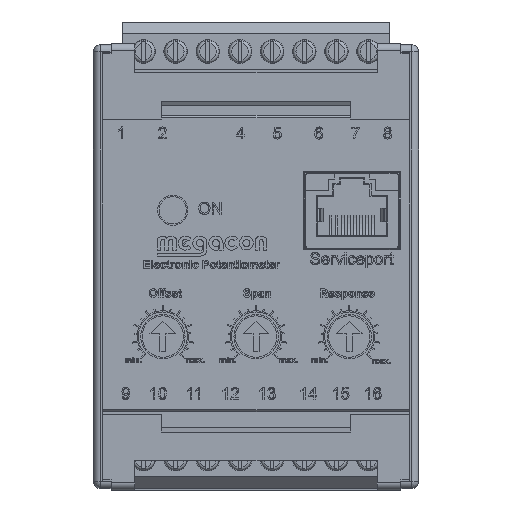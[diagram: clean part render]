
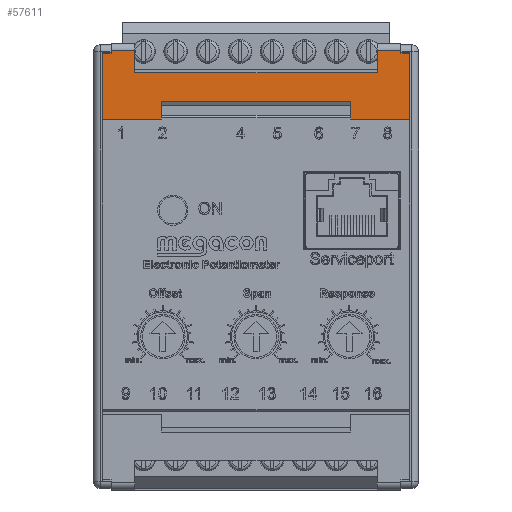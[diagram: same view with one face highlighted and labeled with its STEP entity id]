
A CAD part, front view. The second image highlights one B-rep face of the part: STEP entity #57611.
In plain terms, the highlighted planar face has unit normal (0, -1, 0) as drawn and (0, 1, 0) by its records, which use the part's own axes.
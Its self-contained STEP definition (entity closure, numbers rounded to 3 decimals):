
#4498=PLANE('',#61094);
#6546=FACE_OUTER_BOUND('',#9847,.T.);
#9847=EDGE_LOOP('',(#41024,#41025,#41026,#41027,#41028,#41029,#41030,#41031,
#41032,#41033,#41034,#41035,#41036,#41037,#41038,#41039));
#13535=LINE('',#79485,#19221);
#13608=LINE('',#79630,#19294);
#13705=LINE('',#79819,#19391);
#13706=LINE('',#79821,#19392);
#13707=LINE('',#79823,#19393);
#13708=LINE('',#79824,#19394);
#13709=LINE('',#79826,#19395);
#13710=LINE('',#79828,#19396);
#13711=LINE('',#79830,#19397);
#13712=LINE('',#79832,#19398);
#13713=LINE('',#79833,#19399);
#13714=LINE('',#79835,#19400);
#13715=LINE('',#79837,#19401);
#13716=LINE('',#79839,#19402);
#13717=LINE('',#79841,#19403);
#13718=LINE('',#79842,#19404);
#19221=VECTOR('',#64360,1000.);
#19294=VECTOR('',#64459,1000.);
#19391=VECTOR('',#64596,1000.);
#19392=VECTOR('',#64597,1000.);
#19393=VECTOR('',#64598,1000.);
#19394=VECTOR('',#64599,1000.);
#19395=VECTOR('',#64600,1000.);
#19396=VECTOR('',#64601,1000.);
#19397=VECTOR('',#64602,1000.);
#19398=VECTOR('',#64603,1000.);
#19399=VECTOR('',#64604,1000.);
#19400=VECTOR('',#64605,1000.);
#19401=VECTOR('',#64606,1000.);
#19402=VECTOR('',#64607,1000.);
#19403=VECTOR('',#64608,1000.);
#19404=VECTOR('',#64609,1000.);
#25396=VERTEX_POINT('',#79482);
#25397=VERTEX_POINT('',#79484);
#25455=VERTEX_POINT('',#79627);
#25456=VERTEX_POINT('',#79629);
#25527=VERTEX_POINT('',#79817);
#25528=VERTEX_POINT('',#79818);
#25529=VERTEX_POINT('',#79820);
#25530=VERTEX_POINT('',#79822);
#25531=VERTEX_POINT('',#79825);
#25532=VERTEX_POINT('',#79827);
#25533=VERTEX_POINT('',#79829);
#25534=VERTEX_POINT('',#79831);
#25535=VERTEX_POINT('',#79834);
#25536=VERTEX_POINT('',#79836);
#25537=VERTEX_POINT('',#79838);
#25538=VERTEX_POINT('',#79840);
#31393=EDGE_CURVE('',#25396,#25397,#13535,.T.);
#31466=EDGE_CURVE('',#25456,#25455,#13608,.T.);
#31563=EDGE_CURVE('',#25527,#25528,#13705,.T.);
#31564=EDGE_CURVE('',#25528,#25529,#13706,.T.);
#31565=EDGE_CURVE('',#25530,#25529,#13707,.T.);
#31566=EDGE_CURVE('',#25530,#25456,#13708,.T.);
#31567=EDGE_CURVE('',#25531,#25455,#13709,.T.);
#31568=EDGE_CURVE('',#25532,#25531,#13710,.T.);
#31569=EDGE_CURVE('',#25532,#25533,#13711,.T.);
#31570=EDGE_CURVE('',#25533,#25534,#13712,.T.);
#31571=EDGE_CURVE('',#25397,#25534,#13713,.T.);
#31572=EDGE_CURVE('',#25535,#25396,#13714,.T.);
#31573=EDGE_CURVE('',#25535,#25536,#13715,.T.);
#31574=EDGE_CURVE('',#25536,#25537,#13716,.T.);
#31575=EDGE_CURVE('',#25538,#25537,#13717,.T.);
#31576=EDGE_CURVE('',#25538,#25527,#13718,.T.);
#41024=ORIENTED_EDGE('',*,*,#31563,.T.);
#41025=ORIENTED_EDGE('',*,*,#31564,.T.);
#41026=ORIENTED_EDGE('',*,*,#31565,.F.);
#41027=ORIENTED_EDGE('',*,*,#31566,.T.);
#41028=ORIENTED_EDGE('',*,*,#31466,.T.);
#41029=ORIENTED_EDGE('',*,*,#31567,.F.);
#41030=ORIENTED_EDGE('',*,*,#31568,.F.);
#41031=ORIENTED_EDGE('',*,*,#31569,.T.);
#41032=ORIENTED_EDGE('',*,*,#31570,.T.);
#41033=ORIENTED_EDGE('',*,*,#31571,.F.);
#41034=ORIENTED_EDGE('',*,*,#31393,.F.);
#41035=ORIENTED_EDGE('',*,*,#31572,.F.);
#41036=ORIENTED_EDGE('',*,*,#31573,.T.);
#41037=ORIENTED_EDGE('',*,*,#31574,.T.);
#41038=ORIENTED_EDGE('',*,*,#31575,.F.);
#41039=ORIENTED_EDGE('',*,*,#31576,.T.);
#57611=ADVANCED_FACE('',(#6546),#4498,.F.);
#61094=AXIS2_PLACEMENT_3D('',#79816,#64594,#64595);
#64360=DIRECTION('',(0.,0.,1.));
#64459=DIRECTION('',(0.,0.,1.));
#64594=DIRECTION('center_axis',(0.,-1.,0.));
#64595=DIRECTION('ref_axis',(0.,0.,-1.));
#64596=DIRECTION('',(0.,0.,-1.));
#64597=DIRECTION('',(-1.,0.,0.));
#64598=DIRECTION('',(0.,0.,-1.));
#64599=DIRECTION('',(-1.,0.,0.));
#64600=DIRECTION('',(-1.,0.,0.));
#64601=DIRECTION('',(0.,0.,1.));
#64602=DIRECTION('',(1.,0.,0.));
#64603=DIRECTION('',(0.,0.,1.));
#64604=DIRECTION('',(-1.,0.,0.));
#64605=DIRECTION('',(1.,0.,0.));
#64606=DIRECTION('',(0.,0.,-1.));
#64607=DIRECTION('',(-1.,0.,0.));
#64608=DIRECTION('',(0.,0.,-1.));
#64609=DIRECTION('',(-1.,0.,0.));
#79482=CARTESIAN_POINT('',(26.,0.,-11.3));
#79484=CARTESIAN_POINT('',(26.,0.,0.));
#79485=CARTESIAN_POINT('',(26.,0.,0.));
#79627=CARTESIAN_POINT('',(-26.,0.,0.));
#79629=CARTESIAN_POINT('',(-26.,0.,-11.3));
#79630=CARTESIAN_POINT('',(-26.,0.,0.));
#79816=CARTESIAN_POINT('Origin',(26.,0.,0.));
#79817=CARTESIAN_POINT('',(-20.5,0.,-7.8));
#79818=CARTESIAN_POINT('',(-20.5,0.,-11.6));
#79819=CARTESIAN_POINT('',(-20.5,0.,-7.8));
#79820=CARTESIAN_POINT('',(-24.45,0.,-11.6));
#79821=CARTESIAN_POINT('',(26.,0.,-11.6));
#79822=CARTESIAN_POINT('',(-24.45,0.,-11.3));
#79823=CARTESIAN_POINT('',(-24.45,0.,-11.3));
#79824=CARTESIAN_POINT('',(-26.,0.,-11.3));
#79825=CARTESIAN_POINT('',(-16.,0.,0.));
#79826=CARTESIAN_POINT('',(26.,0.,0.));
#79827=CARTESIAN_POINT('',(-16.,0.,-3.));
#79828=CARTESIAN_POINT('',(-16.,0.,0.));
#79829=CARTESIAN_POINT('',(16.,0.,-3.));
#79830=CARTESIAN_POINT('',(-16.,0.,-3.));
#79831=CARTESIAN_POINT('',(16.,0.,0.));
#79832=CARTESIAN_POINT('',(16.,0.,0.));
#79833=CARTESIAN_POINT('',(26.,0.,0.));
#79834=CARTESIAN_POINT('',(24.45,0.,-11.3));
#79835=CARTESIAN_POINT('',(26.,0.,-11.3));
#79836=CARTESIAN_POINT('',(24.45,0.,-11.6));
#79837=CARTESIAN_POINT('',(24.45,0.,-11.3));
#79838=CARTESIAN_POINT('',(20.5,0.,-11.6));
#79839=CARTESIAN_POINT('',(26.,0.,-11.6));
#79840=CARTESIAN_POINT('',(20.5,0.,-7.8));
#79841=CARTESIAN_POINT('',(20.5,0.,-7.8));
#79842=CARTESIAN_POINT('',(-20.5,0.,-7.8));
